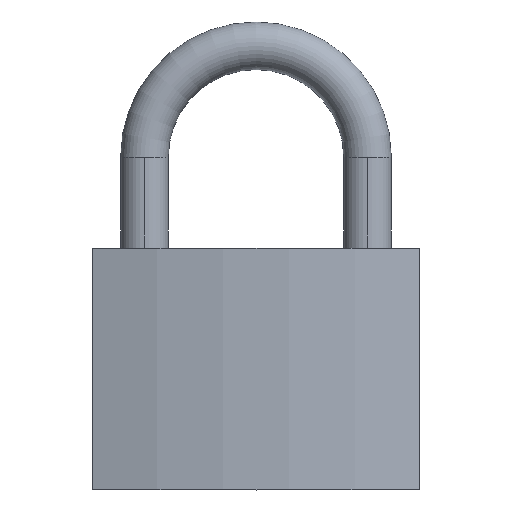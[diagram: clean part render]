
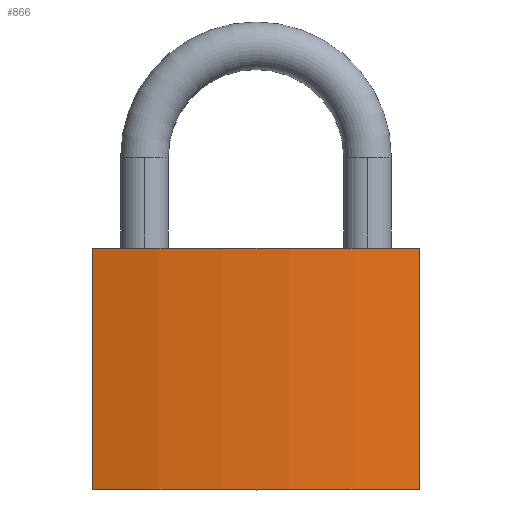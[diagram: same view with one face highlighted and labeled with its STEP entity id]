
A CAD part, top view. The second image highlights one B-rep face of the part: STEP entity #866.
In plain terms, the highlighted cylindrical face has radius 78.4 mm (diameter 156.801 mm), a partial arc.
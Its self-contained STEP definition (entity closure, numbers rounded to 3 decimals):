
#78 = CARTESIAN_POINT ( 'NONE',  ( 0., 32.5, -71.65 ) ) ;
#84 = DIRECTION ( 'NONE',  ( 0., 0., -1. ) ) ;
#85 = DIRECTION ( 'NONE',  ( 0., -1., 0. ) ) ;
#135 = DIRECTION ( 'NONE',  ( 0., 0., 1. ) ) ;
#138 = DIRECTION ( 'NONE',  ( 0., 1., 0. ) ) ;
#141 = CARTESIAN_POINT ( 'NONE',  ( 0., 0., -71.65 ) ) ;
#227 = ORIENTED_EDGE ( 'NONE', *, *, #665, .T. ) ;
#228 = ORIENTED_EDGE ( 'NONE', *, *, #593, .F. ) ;
#229 = ORIENTED_EDGE ( 'NONE', *, *, #575, .F. ) ;
#230 = ORIENTED_EDGE ( 'NONE', *, *, #598, .T. ) ;
#335 = EDGE_LOOP ( 'NONE', ( #227, #228, #229, #230 ) ) ;
#365 = VERTEX_POINT ( 'NONE', #778 ) ;
#366 = VERTEX_POINT ( 'NONE', #777 ) ;
#367 = VERTEX_POINT ( 'NONE', #776 ) ;
#371 = VERTEX_POINT ( 'NONE', #772 ) ;
#415 = CIRCLE ( 'NONE', #594, 78.4 ) ;
#474 = VECTOR ( 'NONE', #713, 1000. ) ;
#479 = VECTOR ( 'NONE', #715, 1000. ) ;
#480 = LINE ( 'NONE', #730, #474 ) ;
#482 = LINE ( 'NONE', #716, #479 ) ;
#484 = CIRCLE ( 'NONE', #626, 78.4 ) ;
#498 = CYLINDRICAL_SURFACE ( 'NONE', #585, 78.4 ) ;
#501 = FACE_OUTER_BOUND ( 'NONE', #335, .T. ) ;
#575 = EDGE_CURVE ( 'NONE', #367, #365, #484, .T. ) ;
#585 = AXIS2_PLACEMENT_3D ( 'NONE', #78, #85, #84 ) ;
#593 = EDGE_CURVE ( 'NONE', #365, #366, #482, .T. ) ;
#594 = AXIS2_PLACEMENT_3D ( 'NONE', #141, #138, #135 ) ;
#598 = EDGE_CURVE ( 'NONE', #367, #371, #480, .T. ) ;
#626 = AXIS2_PLACEMENT_3D ( 'NONE', #728, #727, #726 ) ;
#665 = EDGE_CURVE ( 'NONE', #371, #366, #415, .T. ) ;
#713 = DIRECTION ( 'NONE',  ( 0., -1., 0. ) ) ;
#715 = DIRECTION ( 'NONE',  ( 0., -1., 0. ) ) ;
#716 = CARTESIAN_POINT ( 'NONE',  ( 22., 32.5, 3.6 ) ) ;
#726 = DIRECTION ( 'NONE',  ( 0., 0., 1. ) ) ;
#727 = DIRECTION ( 'NONE',  ( 0., 1., 0. ) ) ;
#728 = CARTESIAN_POINT ( 'NONE',  ( 0., 32.5, -71.65 ) ) ;
#730 = CARTESIAN_POINT ( 'NONE',  ( -22., 32.5, 3.6 ) ) ;
#772 = CARTESIAN_POINT ( 'NONE',  ( -22., 0., 3.6 ) ) ;
#776 = CARTESIAN_POINT ( 'NONE',  ( -22., 32.5, 3.6 ) ) ;
#777 = CARTESIAN_POINT ( 'NONE',  ( 22., 0., 3.6 ) ) ;
#778 = CARTESIAN_POINT ( 'NONE',  ( 22., 32.5, 3.6 ) ) ;
#866 = ADVANCED_FACE ( 'NONE', ( #501 ), #498, .T. ) ;
